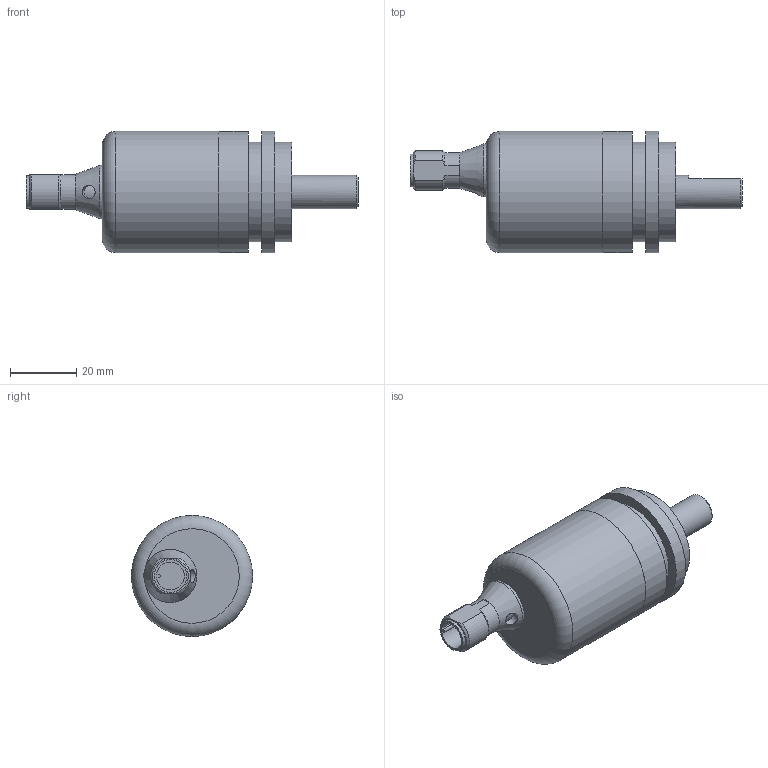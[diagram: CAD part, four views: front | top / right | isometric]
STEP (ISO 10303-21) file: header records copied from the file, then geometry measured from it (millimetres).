
FILE_DESCRIPTION( ( 'STEP AP203' ), ' ' );
FILE_NAME( 'p:/temp/worker_4250/1408_4140/app_53_02017051809535435463114192d056f_000000_00_00_000000/format_3/RM9001.stp', '2017-05-18T07:53:55', ( '' ), ( '' ), ' ', 'PARTsolutions', ' ' );
FILE_SCHEMA( ( 'CONFIG_CONTROL_DESIGN' ) );
Length unit declared in the file: millimetre
Products named in the file (1): _RM9001
Bounding box: 100 x 36.5 x 36.5 mm (x, y, z)
Volume: 59635.4 mm3; surface area: 10870.1 mm2
Topology: 1 solids, 1 shells, 49 faces, 101 edges, 66 vertices
Faces by surface type: plane 22, cylinder 20, cone 6, torus 1
Full cylindrical faces by diameter (mm): 3.3 x4, 4.1 x1, 9.85 x1, 10 x1, 16 x1, 30 x2, 36.46 x1, 36.5 x2
Entity records: 1366 total; most frequent: CARTESIAN_POINT 361, DIRECTION 210, ORIENTED_EDGE 160, AXIS2_PLACEMENT_3D 93, EDGE_CURVE 80, EDGE_LOOP 76, FACE_OUTER_BOUND 63, VERTEX_POINT 60
